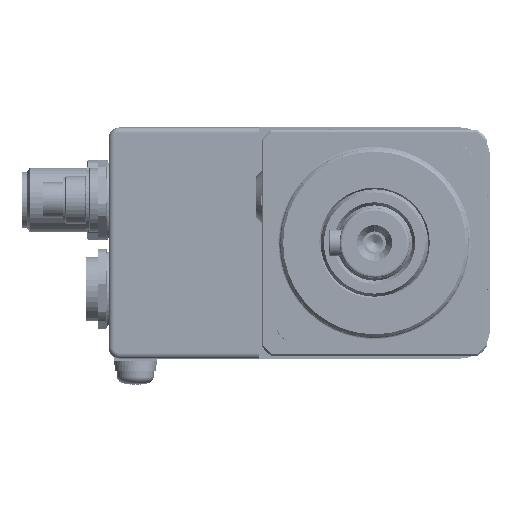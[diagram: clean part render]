
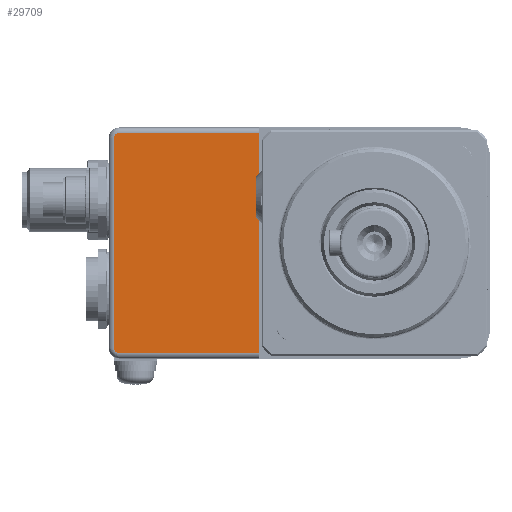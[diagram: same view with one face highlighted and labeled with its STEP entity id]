
A CAD part, left-side view. The second image highlights one B-rep face of the part: STEP entity #29709.
In plain terms, the highlighted planar face has unit normal (-1, 0, 0).
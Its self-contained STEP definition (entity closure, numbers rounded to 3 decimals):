
#7751 = AXIS2_PLACEMENT_3D ( 'NONE', #128281, #73229, #115436 ) ;
#10010 = CARTESIAN_POINT ( 'NONE',  ( -46., 69., -1. ) ) ;
#10168 = CARTESIAN_POINT ( 'NONE',  ( -46., 43., -42. ) ) ;
#11584 = EDGE_CURVE ( 'NONE', #27493, #40902, #89802, .T. ) ;
#12817 = EDGE_CURVE ( 'NONE', #118354, #40902, #69694, .T. ) ;
#18417 = FACE_OUTER_BOUND ( 'NONE', #90666, .T. ) ;
#23032 = DIRECTION ( 'NONE',  ( 0., 0., -1. ) ) ;
#25380 = DIRECTION ( 'NONE',  ( 0., -1., 0. ) ) ;
#27493 = VERTEX_POINT ( 'NONE', #63247 ) ;
#28603 = ORIENTED_EDGE ( 'NONE', *, *, #11584, .T. ) ;
#29709 = ADVANCED_FACE ( 'NONE', ( #18417 ), #174704, .F. ) ;
#34954 = AXIS2_PLACEMENT_3D ( 'NONE', #122622, #49922, #23032 ) ;
#35906 = LINE ( 'NONE', #151058, #132154 ) ;
#36495 = VERTEX_POINT ( 'NONE', #153612 ) ;
#40631 = CIRCLE ( 'NONE', #7751, 1. ) ;
#40902 = VERTEX_POINT ( 'NONE', #10168 ) ;
#41013 = VERTEX_POINT ( 'NONE', #10010 ) ;
#42961 = ORIENTED_EDGE ( 'NONE', *, *, #86982, .T. ) ;
#49922 = DIRECTION ( 'NONE',  ( -1., 0., 0. ) ) ;
#50121 = DIRECTION ( 'NONE',  ( 1., 0., 0. ) ) ;
#57552 = VECTOR ( 'NONE', #78484, 1000. ) ;
#60701 = AXIS2_PLACEMENT_3D ( 'NONE', #93488, #50121, #148444 ) ;
#63247 = CARTESIAN_POINT ( 'NONE',  ( -46., 69., -42. ) ) ;
#69694 = LINE ( 'NONE', #150836, #113376 ) ;
#73136 = EDGE_CURVE ( 'NONE', #86015, #27493, #40631, .T. ) ;
#73229 = DIRECTION ( 'NONE',  ( -1., 0., 0. ) ) ;
#78296 = CARTESIAN_POINT ( 'NONE',  ( -46., 43., -1. ) ) ;
#78484 = DIRECTION ( 'NONE',  ( 0., 1., 0. ) ) ;
#86015 = VERTEX_POINT ( 'NONE', #95470 ) ;
#86783 = ORIENTED_EDGE ( 'NONE', *, *, #12817, .F. ) ;
#86982 = EDGE_CURVE ( 'NONE', #41013, #36495, #114692, .T. ) ;
#88804 = ORIENTED_EDGE ( 'NONE', *, *, #95582, .T. ) ;
#89802 = LINE ( 'NONE', #164678, #102889 ) ;
#90666 = EDGE_LOOP ( 'NONE', ( #141910, #28603, #86783, #98328, #42961, #88804 ) ) ;
#93488 = CARTESIAN_POINT ( 'NONE',  ( -46., 0., 0. ) ) ;
#95470 = CARTESIAN_POINT ( 'NONE',  ( -46., 70., -41. ) ) ;
#95582 = EDGE_CURVE ( 'NONE', #36495, #86015, #35906, .T. ) ;
#98328 = ORIENTED_EDGE ( 'NONE', *, *, #125257, .T. ) ;
#102889 = VECTOR ( 'NONE', #25380, 1000. ) ;
#109289 = DIRECTION ( 'NONE',  ( 0., 0., -1. ) ) ;
#113376 = VECTOR ( 'NONE', #109289, 1000. ) ;
#114692 = CIRCLE ( 'NONE', #34954, 1. ) ;
#115436 = DIRECTION ( 'NONE',  ( 0., 0., -1. ) ) ;
#118354 = VERTEX_POINT ( 'NONE', #78296 ) ;
#121776 = DIRECTION ( 'NONE',  ( 0., 0., -1. ) ) ;
#122622 = CARTESIAN_POINT ( 'NONE',  ( -46., 69., -2. ) ) ;
#125257 = EDGE_CURVE ( 'NONE', #118354, #41013, #166975, .T. ) ;
#128281 = CARTESIAN_POINT ( 'NONE',  ( -46., 69., -41. ) ) ;
#132154 = VECTOR ( 'NONE', #121776, 1000. ) ;
#141910 = ORIENTED_EDGE ( 'NONE', *, *, #73136, .T. ) ;
#148444 = DIRECTION ( 'NONE',  ( 0., 0., -1. ) ) ;
#150836 = CARTESIAN_POINT ( 'NONE',  ( -46., 43., 0. ) ) ;
#151058 = CARTESIAN_POINT ( 'NONE',  ( -46., 70., 0. ) ) ;
#153612 = CARTESIAN_POINT ( 'NONE',  ( -46., 70., -2. ) ) ;
#164678 = CARTESIAN_POINT ( 'NONE',  ( -46., 43., -42. ) ) ;
#166975 = LINE ( 'NONE', #175619, #57552 ) ;
#174704 = PLANE ( 'NONE',  #60701 ) ;
#175619 = CARTESIAN_POINT ( 'NONE',  ( -46., 0., -1. ) ) ;
